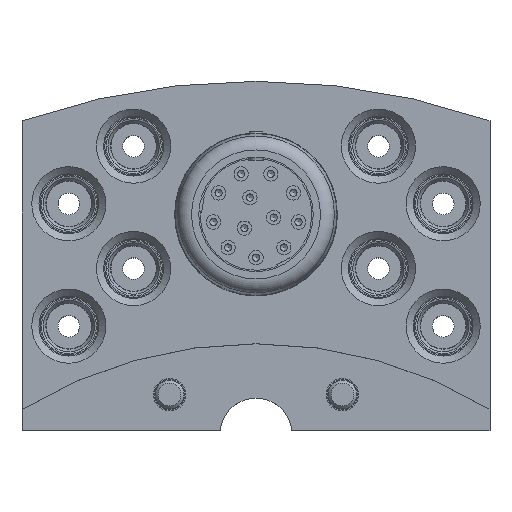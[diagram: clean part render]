
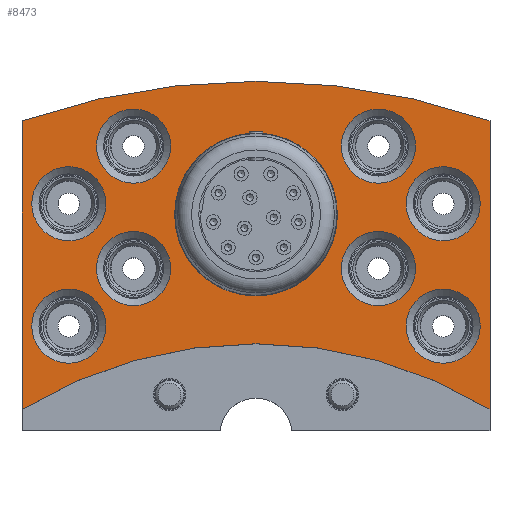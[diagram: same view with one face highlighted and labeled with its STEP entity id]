
A CAD part, top view. The second image highlights one B-rep face of the part: STEP entity #8473.
In plain terms, the highlighted planar face has unit normal (0, 0, 1).
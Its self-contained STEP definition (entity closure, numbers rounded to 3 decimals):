
#89=PLANE('',#9052);
#281=FACE_BOUND('',#1121,.T.);
#282=FACE_BOUND('',#1122,.T.);
#283=FACE_BOUND('',#1123,.T.);
#284=FACE_BOUND('',#1124,.T.);
#285=FACE_BOUND('',#1125,.T.);
#286=FACE_BOUND('',#1126,.T.);
#287=FACE_BOUND('',#1127,.T.);
#288=FACE_BOUND('',#1128,.T.);
#289=FACE_BOUND('',#1129,.T.);
#630=FACE_OUTER_BOUND('',#1120,.T.);
#1120=EDGE_LOOP('',(#5623,#5624,#5625,#5626));
#1121=EDGE_LOOP('',(#5627,#5628));
#1122=EDGE_LOOP('',(#5629));
#1123=EDGE_LOOP('',(#5630));
#1124=EDGE_LOOP('',(#5631));
#1125=EDGE_LOOP('',(#5632));
#1126=EDGE_LOOP('',(#5633));
#1127=EDGE_LOOP('',(#5634));
#1128=EDGE_LOOP('',(#5635));
#1129=EDGE_LOOP('',(#5636));
#1684=LINE('',#13262,#2152);
#1685=LINE('',#13265,#2153);
#2152=VECTOR('',#10386,10.);
#2153=VECTOR('',#10389,10.);
#2624=CIRCLE('',#8979,11.3);
#2625=CIRCLE('',#8980,11.3);
#2666=CIRCLE('',#9049,5.15);
#2669=CIRCLE('',#9053,62.55);
#2670=CIRCLE('',#9054,99.);
#2671=CIRCLE('',#9055,5.15);
#2672=CIRCLE('',#9056,5.15);
#2673=CIRCLE('',#9057,5.15);
#2674=CIRCLE('',#9058,5.15);
#2675=CIRCLE('',#9059,5.15);
#2676=CIRCLE('',#9060,5.15);
#2677=CIRCLE('',#9061,5.15);
#3347=VERTEX_POINT('',#13121);
#3348=VERTEX_POINT('',#13123);
#3388=VERTEX_POINT('',#13250);
#3391=VERTEX_POINT('',#13258);
#3392=VERTEX_POINT('',#13259);
#3393=VERTEX_POINT('',#13261);
#3394=VERTEX_POINT('',#13263);
#3395=VERTEX_POINT('',#13266);
#3396=VERTEX_POINT('',#13268);
#3397=VERTEX_POINT('',#13270);
#3398=VERTEX_POINT('',#13272);
#3399=VERTEX_POINT('',#13274);
#3400=VERTEX_POINT('',#13276);
#3401=VERTEX_POINT('',#13278);
#4243=EDGE_CURVE('',#3348,#3347,#2624,.T.);
#4244=EDGE_CURVE('',#3347,#3348,#2625,.T.);
#4302=EDGE_CURVE('',#3388,#3388,#2666,.T.);
#4306=EDGE_CURVE('',#3391,#3392,#2669,.T.);
#4307=EDGE_CURVE('',#3392,#3393,#1684,.T.);
#4308=EDGE_CURVE('',#3393,#3394,#2670,.T.);
#4309=EDGE_CURVE('',#3394,#3391,#1685,.T.);
#4310=EDGE_CURVE('',#3395,#3395,#2671,.T.);
#4311=EDGE_CURVE('',#3396,#3396,#2672,.T.);
#4312=EDGE_CURVE('',#3397,#3397,#2673,.T.);
#4313=EDGE_CURVE('',#3398,#3398,#2674,.T.);
#4314=EDGE_CURVE('',#3399,#3399,#2675,.T.);
#4315=EDGE_CURVE('',#3400,#3400,#2676,.T.);
#4316=EDGE_CURVE('',#3401,#3401,#2677,.T.);
#5623=ORIENTED_EDGE('',*,*,#4306,.T.);
#5624=ORIENTED_EDGE('',*,*,#4307,.T.);
#5625=ORIENTED_EDGE('',*,*,#4308,.T.);
#5626=ORIENTED_EDGE('',*,*,#4309,.T.);
#5627=ORIENTED_EDGE('',*,*,#4243,.T.);
#5628=ORIENTED_EDGE('',*,*,#4244,.T.);
#5629=ORIENTED_EDGE('',*,*,#4310,.F.);
#5630=ORIENTED_EDGE('',*,*,#4311,.F.);
#5631=ORIENTED_EDGE('',*,*,#4312,.F.);
#5632=ORIENTED_EDGE('',*,*,#4313,.F.);
#5633=ORIENTED_EDGE('',*,*,#4314,.F.);
#5634=ORIENTED_EDGE('',*,*,#4315,.F.);
#5635=ORIENTED_EDGE('',*,*,#4316,.F.);
#5636=ORIENTED_EDGE('',*,*,#4302,.F.);
#8473=ADVANCED_FACE('',(#630,#281,#282,#283,#284,#285,#286,#287,#288,#289),
#89,.T.);
#8979=AXIS2_PLACEMENT_3D('',#13124,#10218,#10219);
#8980=AXIS2_PLACEMENT_3D('',#13125,#10220,#10221);
#9049=AXIS2_PLACEMENT_3D('',#13251,#10375,#10376);
#9052=AXIS2_PLACEMENT_3D('',#13257,#10382,#10383);
#9053=AXIS2_PLACEMENT_3D('',#13260,#10384,#10385);
#9054=AXIS2_PLACEMENT_3D('',#13264,#10387,#10388);
#9055=AXIS2_PLACEMENT_3D('',#13267,#10390,#10391);
#9056=AXIS2_PLACEMENT_3D('',#13269,#10392,#10393);
#9057=AXIS2_PLACEMENT_3D('',#13271,#10394,#10395);
#9058=AXIS2_PLACEMENT_3D('',#13273,#10396,#10397);
#9059=AXIS2_PLACEMENT_3D('',#13275,#10398,#10399);
#9060=AXIS2_PLACEMENT_3D('',#13277,#10400,#10401);
#9061=AXIS2_PLACEMENT_3D('',#13279,#10402,#10403);
#10218=DIRECTION('center_axis',(0.,0.,-1.));
#10219=DIRECTION('ref_axis',(0.,-1.,0.));
#10220=DIRECTION('center_axis',(0.,0.,-1.));
#10221=DIRECTION('ref_axis',(0.,-1.,0.));
#10375=DIRECTION('center_axis',(0.,0.,1.));
#10376=DIRECTION('ref_axis',(-1.,0.,0.));
#10382=DIRECTION('center_axis',(0.,0.,1.));
#10383=DIRECTION('ref_axis',(1.,0.,0.));
#10384=DIRECTION('center_axis',(0.,0.,-1.));
#10385=DIRECTION('ref_axis',(-1.,0.,0.));
#10386=DIRECTION('',(0.,1.,0.));
#10387=DIRECTION('center_axis',(0.,0.,1.));
#10388=DIRECTION('ref_axis',(0.328,0.945,0.));
#10389=DIRECTION('',(0.,-1.,0.));
#10390=DIRECTION('center_axis',(0.,0.,1.));
#10391=DIRECTION('ref_axis',(-1.,0.,0.));
#10392=DIRECTION('center_axis',(0.,0.,1.));
#10393=DIRECTION('ref_axis',(-1.,0.,0.));
#10394=DIRECTION('center_axis',(0.,0.,1.));
#10395=DIRECTION('ref_axis',(-1.,0.,0.));
#10396=DIRECTION('center_axis',(0.,0.,1.));
#10397=DIRECTION('ref_axis',(-1.,0.,0.));
#10398=DIRECTION('center_axis',(0.,0.,1.));
#10399=DIRECTION('ref_axis',(-1.,0.,0.));
#10400=DIRECTION('center_axis',(0.,0.,1.));
#10401=DIRECTION('ref_axis',(-1.,0.,0.));
#10402=DIRECTION('center_axis',(0.,0.,1.));
#10403=DIRECTION('ref_axis',(-1.,0.,0.));
#13121=CARTESIAN_POINT('',(0.,91.8,0.));
#13123=CARTESIAN_POINT('',(0.,69.2,0.));
#13124=CARTESIAN_POINT('Origin',(0.,80.5,0.));
#13125=CARTESIAN_POINT('Origin',(0.,80.5,0.));
#13250=CARTESIAN_POINT('',(22.15,90.,0.));
#13251=CARTESIAN_POINT('Origin',(17.,90.,0.));
#13257=CARTESIAN_POINT('Origin',(0.,72.817,
0.));
#13258=CARTESIAN_POINT('',(-32.5,53.444,0.));
#13259=CARTESIAN_POINT('',(32.5,53.444,0.));
#13260=CARTESIAN_POINT('Origin',(0.,0.,0.));
#13261=CARTESIAN_POINT('',(32.5,93.513,0.));
#13262=CARTESIAN_POINT('',(32.5,50.5,0.));
#13263=CARTESIAN_POINT('',(-32.5,93.513,0.));
#13264=CARTESIAN_POINT('Origin',(0.,0.,0.));
#13265=CARTESIAN_POINT('',(-32.5,93.513,0.));
#13266=CARTESIAN_POINT('',(22.15,73.,0.));
#13267=CARTESIAN_POINT('Origin',(17.,73.,0.));
#13268=CARTESIAN_POINT('',(31.15,65.,0.));
#13269=CARTESIAN_POINT('Origin',(26.,65.,0.));
#13270=CARTESIAN_POINT('',(31.15,82.,0.));
#13271=CARTESIAN_POINT('Origin',(26.,82.,0.));
#13272=CARTESIAN_POINT('',(-11.85,90.,0.));
#13273=CARTESIAN_POINT('Origin',(-17.,90.,0.));
#13274=CARTESIAN_POINT('',(-20.85,82.,0.));
#13275=CARTESIAN_POINT('Origin',(-26.,82.,0.));
#13276=CARTESIAN_POINT('',(-20.85,65.,0.));
#13277=CARTESIAN_POINT('Origin',(-26.,65.,0.));
#13278=CARTESIAN_POINT('',(-11.85,73.,0.));
#13279=CARTESIAN_POINT('Origin',(-17.,73.,0.));
